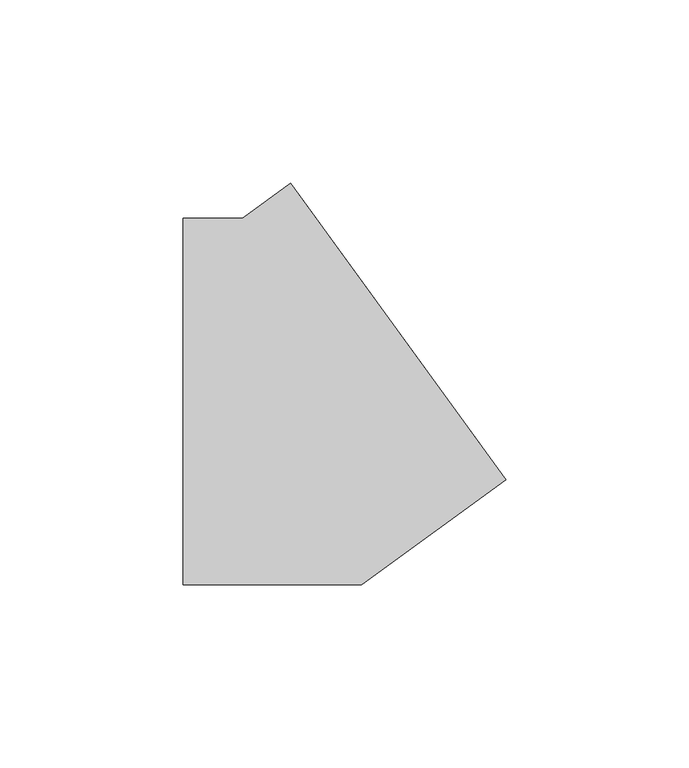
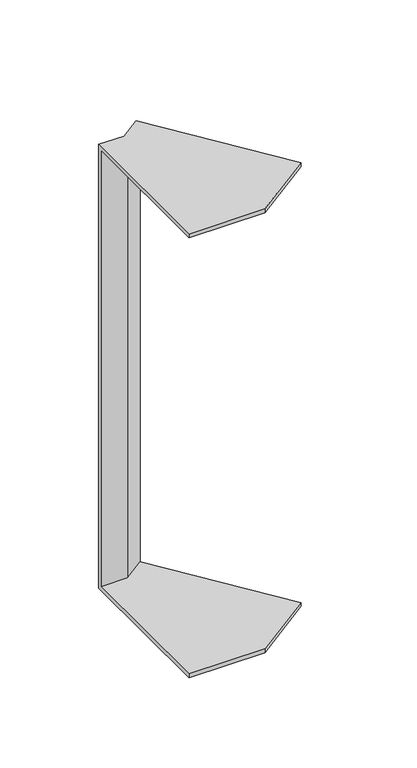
"""IFC4 building model written with IfcOpenShell, lengths in millimetres: cable carrier fitting geometry, ADSK_Поворот вертикальный наружный_Минимальный размер : Неперфорированный."""

from ifc_helpers import new_model, si_unit, origin, place, context, project, spatial, faceted_brep, source, transform, mapped, element, save


def cable_carrier_fitting_fe5ecedc(model_context):
    return source(origin(), model_context, "Body", "Brep", [
        faceted_brep([(-32.4919696, 50.0, 150.0), (-32.4919696, 50.0, -150.0), (-32.4919696, -50.0, -150.0), (-32.4919696, -50.0, -147.46), (-32.4919696, 47.46, -147.46), (-32.4919696, 47.46, 147.46), (-32.4919696, -50.0, 147.46), (-32.4919696, -50.0, 150.0), (-3.102707, 59.5491503, 150.0), (55.6758182, -21.3525492, 150.0), (55.6758182, -21.3525492, 147.46), (-1.6097325, 57.4942471, 147.46), (-1.6097325, 57.4942471, -147.46), (55.6758182, -21.3525492, -147.46), (55.6758182, -21.3525492, -150.0), (-3.102707, 59.5491503, -150.0), (-16.2459848, 50.0, 150.0), (-16.2459848, 50.0, -150.0), (16.2459848, -50.0, -150.0), (16.2459848, -50.0, -147.46), (-15.4206888, 47.46, -147.46), (-15.4206888, 47.46, 147.46), (16.2459848, -50.0, 147.46), (16.2459848, -50.0, 150.0)], [[[0, 1, 2, 3, 4, 5, 6, 7]], [[8, 9, 10, 11, 12, 13, 14, 15]], [[1, 0, 16, 17]], [[2, 1, 17, 15, 14, 18]], [[3, 2, 18, 19]], [[4, 3, 19, 13, 12, 20]], [[5, 4, 20, 21]], [[6, 5, 21, 11, 10, 22]], [[7, 6, 22, 23]], [[0, 7, 23, 9, 8, 16]], [[17, 16, 8, 15]], [[19, 18, 14, 13]], [[21, 20, 12, 11]], [[23, 22, 10, 9]]]),
    ])


if __name__ == "__main__":
    model = new_model("IFC4")
    model_context = context("Model", 3, world=origin())
    ifc_project = project(units=[si_unit("LENGTHUNIT", "METRE", prefix="MILLI")], contexts=[model_context])
    site = spatial("IfcSite", under=ifc_project)
    building = spatial("IfcBuilding", under=site)
    placement = place(None, origin())
    cable_carrier_fitting_shape = cable_carrier_fitting_fe5ecedc(model_context)
    element("IfcCableCarrierFitting", 1, ObjectType="ADSK_Поворот вертикальный наружный_Минимальный размер : Неперфорированный", at=placement, inside=building, context=model_context, shape_type="MappedRepresentation", body=[
        mapped(cable_carrier_fitting_shape, transform((0.0, 0.0, 0.0), x_axis=(1.0, 0.0, 0.0), y_axis=(0.0, 1.0, 0.0), z_axis=(0.0, 0.0, 1.0))),
    ])
    save(model, "model.ifc")
